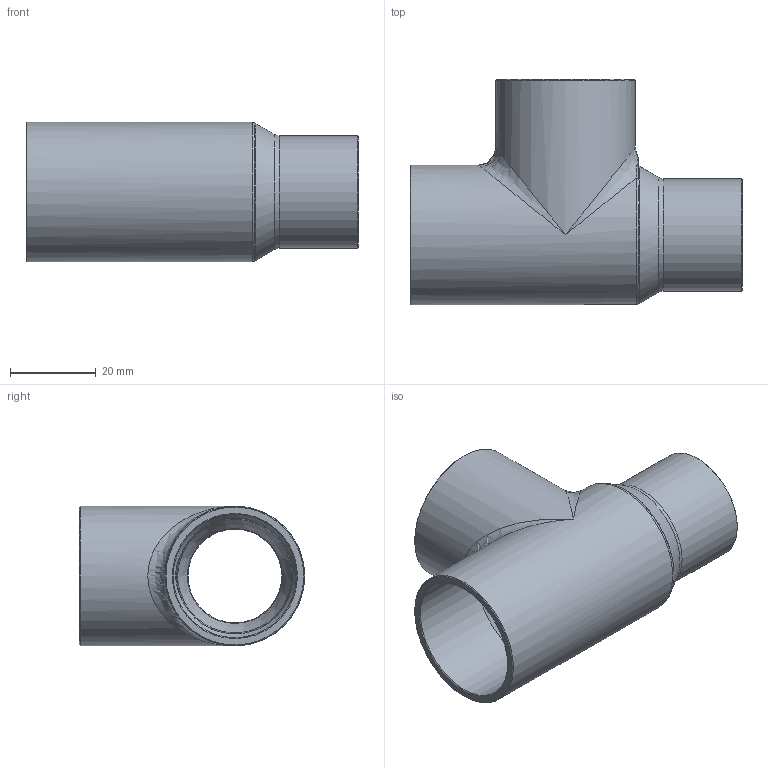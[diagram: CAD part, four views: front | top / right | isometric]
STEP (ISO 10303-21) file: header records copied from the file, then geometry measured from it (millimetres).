
FILE_DESCRIPTION((''),'2;1');
FILE_NAME('G:\SANHA-Ternat\Technik\Management\Bouwmaten + markeringen\z-maattekeningen 3D\29000s\2913011811878_3d.stp','2017-08-01T11:46:54',('vdvijverd'),(''),'Autodesk Inventor 2009','Autodesk Inventor 2009','');
FILE_SCHEMA(('AUTOMOTIVE_DESIGN { 1 0 10303 214 1 1 1 1 }'));
Length unit declared in the file: millimetre
Products named in the file (1): 2913011811878_3d
Bounding box: 77.3 x 52.45 x 32.5 mm (x, y, z)
Volume: 19028.9 mm3; surface area: 17635.7 mm2
Topology: 1 solids, 1 shells, 36 faces, 87 edges, 48 vertices
Faces by surface type: cone 10, bspline 10, cylinder 9, plane 4, torus 3
Full cylindrical faces by diameter (mm): 22.375 x1, 26.175 x1, 28.725 x2, 32.5 x2
Entity records: 2518 total; most frequent: CARTESIAN_POINT 1830, DIRECTION 134, ORIENTED_EDGE 114, AXIS2_PLACEMENT_3D 67, EDGE_LOOP 59, EDGE_CURVE 57, VERTEX_POINT 42, FACE_OUTER_BOUND 36
